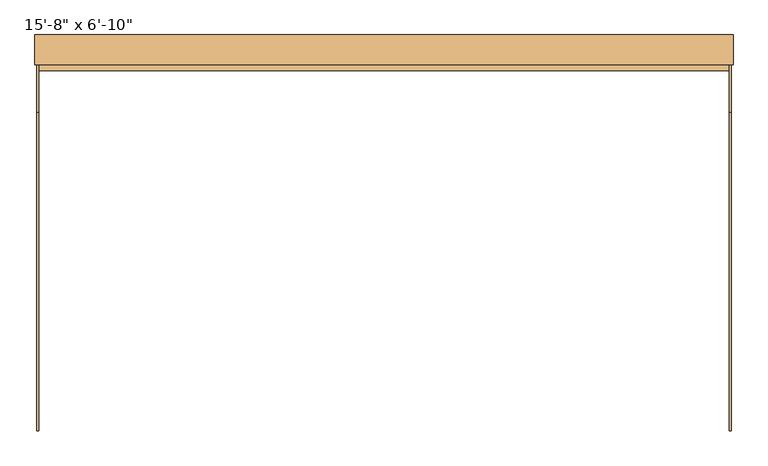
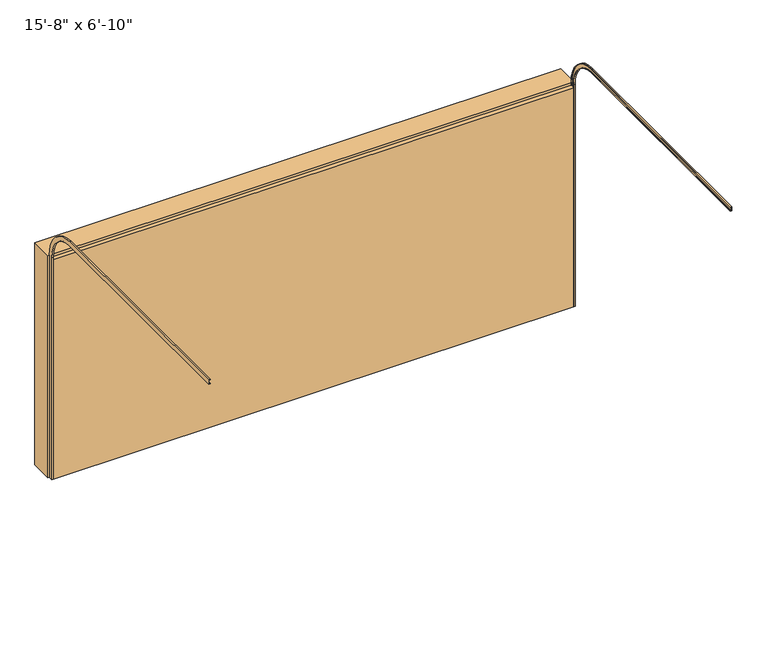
"""IFC4 building model written with IfcOpenShell, lengths in millimetres: door geometry."""

import ifcopenshell
import ifcopenshell.guid

model = None  # the IFC model being written
_history = None  # IfcOwnerHistory: only IFC2X3 demands one
_inside = {}  # id of a spatial element -> (the spatial element, [elements in it])
_under = {}  # id of a project, library or spatial element -> (it, [spatial elements below it])
_declared = {}  # id of a project -> (the project, [libraries it declares])
_typed = {}  # id of a type object -> (the type object, [elements of that type])
_made_of = {}  # id of a material, layer set ... -> (it, [elements and type objects made of it])


def new_model(schema):
    """Start an empty IFC model of exactly this schema.

    Asked for "IFC4X3", IfcOpenShell would pick the latest addendum, in which some entities
    have other attributes; the version numbers below select the first issue.
    IFC2X3 requires an IfcOwnerHistory on every rooted entity: one is made here for all.
    """
    global model, _history
    if schema == "IFC4X3":
        model = ifcopenshell.file(schema_version=(4, 3, 0, 0))
    else:
        model = ifcopenshell.file(schema=schema)
    _inside.clear()
    _under.clear()
    _declared.clear()
    _typed.clear()
    _made_of.clear()
    _history = None
    if model.schema == "IFC2X3":
        org = make("IfcOrganization", Name="unknown")
        user = make(
            "IfcPersonAndOrganization",
            ThePerson=make("IfcPerson", FamilyName="unknown"),
            TheOrganization=org,
        )
        app = make(
            "IfcApplication",
            ApplicationDeveloper=org,
            Version="unknown",
            ApplicationFullName="unknown",
            ApplicationIdentifier="unknown",
        )
        _history = make(
            "IfcOwnerHistory",
            OwningUser=user,
            OwningApplication=app,
            ChangeAction="ADDED",
            CreationDate=0,
        )
    return model


def make(cls, **values):
    """One entity of the class cls with the attributes given. An attribute that is None is left unset."""
    return model.create_entity(
        cls, **{name: value for name, value in values.items() if value is not None}
    )


def rooted(cls, **values):
    """An entity with a GlobalId (a new one), such as an element, a storey or a relation."""
    return make(cls, GlobalId=ifcopenshell.guid.new(), OwnerHistory=_history, **values)


def si_unit(unit_type, name, prefix=None):
    """IfcSIUnit, for example si_unit("LENGTHUNIT", "METRE", prefix="MILLI")."""
    return make("IfcSIUnit", UnitType=unit_type, Prefix=prefix, Name=name)


def assignment(units):
    """IfcUnitAssignment: the units of a project."""
    return None if units is None else make("IfcUnitAssignment", Units=units)


def point(xyz):
    """IfcCartesianPoint."""
    return None if xyz is None else make("IfcCartesianPoint", Coordinates=xyz)


def direction(xyz):
    """IfcDirection."""
    return None if xyz is None else make("IfcDirection", DirectionRatios=xyz)


def frame(location, z_axis=None, x_axis=None):
    """IfcAxis2Placement3D, a coordinate frame: its origin and axes. An axis left out is left unset."""
    return make(
        "IfcAxis2Placement3D",
        Location=point(location),
        Axis=direction(z_axis),
        RefDirection=direction(x_axis),
    )


def origin():
    """The frame at (0, 0, 0) with its axes left unset."""
    return frame((0.0, 0.0, 0.0))


def origin_with_axes():
    """The frame at (0, 0, 0) with the z axis (0, 0, 1) and the x axis (1, 0, 0) written out."""
    return frame((0.0, 0.0, 0.0), z_axis=(0.0, 0.0, 1.0), x_axis=(1.0, 0.0, 0.0))


def place(relative_to, where):
    """IfcLocalPlacement: puts the frame where relative to a parent placement (None: the world)."""
    return make(
        "IfcLocalPlacement", PlacementRelTo=relative_to, RelativePlacement=where
    )


def context(
    kind, dimensions, precision=None, world=None, true_north=None, identifier=None
):
    """IfcGeometricRepresentationContext, for example the 3D "Model" context."""
    return make(
        "IfcGeometricRepresentationContext",
        ContextIdentifier=identifier,
        ContextType=kind,
        CoordinateSpaceDimension=dimensions,
        Precision=precision,
        WorldCoordinateSystem=world,
        TrueNorth=true_north,
    )


def project(units=None, contexts=None):
    """IfcProject with its units and contexts."""
    return rooted(
        "IfcProject",
        Name="project",
        RepresentationContexts=contexts,
        UnitsInContext=assignment(units),
    )


def spatial(cls, under=None, at=None, **own):
    """A site, building, storey or space (cls), placed at a placement, below another one or the project."""
    s = rooted(cls, ObjectPlacement=at, **own)
    if under is not None:
        _under.setdefault(under.id(), (under, []))[1].append(s)
    return s


def polyline(points):
    """IfcPolyline through the points."""
    return make("IfcPolyline", Points=[point(p) for p in points])


def circle_curve(where, radius):
    """IfcCircle in the frame where."""
    return make("IfcCircle", Position=where, Radius=radius)


def outline(outer, holes=None, kind="AREA"):
    """IfcArbitraryClosedProfileDef: a profile drawn as a closed curve; with holes, ...WithVoids."""
    if holes is None:
        return make("IfcArbitraryClosedProfileDef", ProfileType=kind, OuterCurve=outer)
    return make(
        "IfcArbitraryProfileDefWithVoids",
        ProfileType=kind,
        OuterCurve=outer,
        InnerCurves=holes,
    )


def extrude(swept, where, along, depth):
    """IfcExtrudedAreaSolid: the profile swept, set in the frame where, extruded along a direction by depth."""
    return make(
        "IfcExtrudedAreaSolid",
        SweptArea=swept,
        Position=where,
        ExtrudedDirection=direction(along),
        Depth=depth,
    )


def shape(context_of_items, identifier, shape_type, items):
    """IfcShapeRepresentation: the items that make up one representation, for example the "Body"."""
    return make(
        "IfcShapeRepresentation",
        ContextOfItems=context_of_items,
        RepresentationIdentifier=identifier,
        RepresentationType=shape_type,
        Items=items,
    )


def source(mapping_origin, context_of_items, identifier, shape_type, items):
    """IfcRepresentationMap: a shape defined once, which mapped items show again and again."""
    return make(
        "IfcRepresentationMap",
        MappingOrigin=mapping_origin,
        MappedRepresentation=shape(context_of_items, identifier, shape_type, items),
    )


def transform(
    local_origin,
    x_axis=None,
    y_axis=None,
    z_axis=None,
    scale=None,
    scale2=None,
    scale3=None,
    uniform=True,
):
    """IfcCartesianTransformationOperator3D, or its non-uniform kind. x_axis, y_axis, z_axis: its Axis1, 2, 3."""
    if uniform:
        return make(
            "IfcCartesianTransformationOperator3D",
            Axis1=direction(x_axis),
            Axis2=direction(y_axis),
            LocalOrigin=point(local_origin),
            Scale=scale,
            Axis3=direction(z_axis),
        )
    return make(
        "IfcCartesianTransformationOperator3DnonUniform",
        Axis1=direction(x_axis),
        Axis2=direction(y_axis),
        LocalOrigin=point(local_origin),
        Scale=scale,
        Axis3=direction(z_axis),
        Scale2=scale2,
        Scale3=scale3,
    )


def mapped(mapping_source, mapping_target):
    """IfcMappedItem: shows the shape of a source again, moved by a transform."""
    return make(
        "IfcMappedItem", MappingSource=mapping_source, MappingTarget=mapping_target
    )


def made_of(thing, what):
    """Note that an element or type object is made of a material, layer set ...; save() writes the relation."""
    if what is not None:
        _made_of.setdefault(what.id(), (what, []))[1].append(thing)
    return thing


def element(
    cls,
    number,
    at=None,
    inside=None,
    cuts=None,
    type_object=None,
    material=None,
    context=None,
    identifier="Body",
    shape_type=None,
    held_by="IfcProductDefinitionShape",
    body=None,
    shapes=None,
    **own,
):
    """One element of the class cls, such as IfcWall. Its Tag is "e" and its number.

    at: its placement. inside: the storey or other place that contains it. cuts: it is an
    opening in that element (IfcRelVoidsElement). A single representation is given by context,
    identifier, shape_type and body (its items); several are given by shapes. held_by: the class
    of the entity that holds the representations. save() writes the other relations.
    """
    e = rooted(cls, Tag="e%d" % number, ObjectPlacement=at, **own)
    if body is not None:
        shapes = [shape(context, identifier, shape_type, body)]
    if shapes is not None:
        e.Representation = make(held_by, Representations=shapes)
    if inside is not None:
        _inside.setdefault(inside.id(), (inside, []))[1].append(e)
    if cuts is not None:
        rooted(
            "IfcRelVoidsElement", RelatingBuildingElement=cuts, RelatedOpeningElement=e
        )
    if type_object is not None:
        _typed.setdefault(type_object.id(), (type_object, []))[1].append(e)
    return made_of(e, material)


def aggregate(whole, parts):
    """IfcRelAggregates: a whole, such as a stair, and the parts it consists of."""
    return rooted("IfcRelAggregates", RelatingObject=whole, RelatedObjects=parts)


def save(model, path):
    """Write the relations noted so far, then the file.

    IfcRelAggregates (storeys below a building ...), IfcRelContainedInSpatialStructure (elements
    in a storey), IfcRelDefinesByType, IfcRelAssociatesMaterial and IfcRelDeclares: one each for
    every whole, place, type object, material and project.
    """
    for whole, parts in _under.values():
        aggregate(whole, parts)
    for where, things in _inside.values():
        rooted(
            "IfcRelContainedInSpatialStructure",
            RelatedElements=things,
            RelatingStructure=where,
        )
    for kind, things in _typed.values():
        rooted("IfcRelDefinesByType", RelatedObjects=things, RelatingType=kind)
    for what, things in _made_of.values():
        rooted("IfcRelAssociatesMaterial", RelatedObjects=things, RelatingMaterial=what)
    for by, libraries in _declared.values():
        rooted("IfcRelDeclares", RelatingContext=by, RelatedDefinitions=libraries)
    model.write(path)


def plane_surface(at):
    """IfcPlane: the flat surface through the origin of the frame at, square to its z axis."""
    return make("IfcPlane", Position=at)


def cylinder_surface(at, radius):
    """IfcCylindricalSurface: all points at the distance radius from the z axis of the frame at."""
    return make("IfcCylindricalSurface", Position=at, Radius=radius)


def revolved_surface(curve, axis_point, axis_direction):
    """IfcSurfaceOfRevolution: the curve turned about the line through axis_point along axis_direction."""
    return make(
        "IfcSurfaceOfRevolution",
        SweptCurve=make("IfcArbitraryOpenProfileDef", ProfileType="CURVE", Curve=curve),
        AxisPosition=make("IfcAxis1Placement", Location=point(axis_point), Axis=direction(axis_direction)),
    )


def advanced_brep(points, edges, surfaces, faces):
    """IfcAdvancedBrep: a solid bounded by faces that lie on surfaces and meet in shared edges.

    An edge is (start, end): straight between two places in points (the first is 0);
    or (start, end, curve); or (start, end, curve, False) where it runs against its curve.
    A face is (place in surfaces, loops), or (place, loops, False) where it looks against
    its surface's normal. A loop lists edges by number (the first is 1), with a minus sign
    where the edge is run from its end to its start. The first loop is the outer one.
    """
    corners = [point(p) for p in points]
    vertices = [make("IfcVertexPoint", VertexGeometry=c) for c in corners]
    made = []
    for start, end, *more in edges:
        made.append(
            make(
                "IfcEdgeCurve",
                EdgeStart=vertices[start],
                EdgeEnd=vertices[end],
                EdgeGeometry=more[0] if more else make("IfcPolyline", Points=[corners[start], corners[end]]),
                SameSense=more[1] if len(more) > 1 else True,
            )
        )
    hull = []
    for where, loops, *sense in faces:
        bounds = []
        for j, loop in enumerate(loops):
            ring = [make("IfcOrientedEdge", EdgeElement=made[abs(k) - 1], Orientation=k > 0) for k in loop]
            bounds.append(
                make(
                    "IfcFaceOuterBound" if j == 0 else "IfcFaceBound",
                    Bound=make("IfcEdgeLoop", EdgeList=ring),
                    Orientation=True,
                )
            )
        hull.append(make("IfcAdvancedFace", Bounds=bounds, FaceSurface=surfaces[where], SameSense=sense[0] if sense else True))
    return make("IfcAdvancedBrep", Outer=make("IfcClosedShell", CfsFaces=hull))


def door_07191283(model_context):
    return source(origin(), model_context, "Body", "SolidModel", [
        advanced_brep(
        [(2349.5, -144.775, 0.0), (2336.8, -144.775, 0.0), (2336.8, -141.6, 0.0), (2346.325, -141.6, 0.0), (2346.325, -107.975, 0.0), (2336.8, -107.975, 0.0), (2336.8, -104.775, 0.0), (2349.5, -104.775, 0.0), (2349.5, -144.775, 2107.8), (2336.8, -144.775, 2107.8), (2336.8, -424.175, 2387.2), (2336.8, -2583.175, 2387.2), (2336.8, -2583.175, 2390.375), (2336.8, -424.175, 2390.375), (2336.8, -141.6, 2107.8), (2346.325, -141.6, 2107.8), (2346.325, -424.175, 2390.375), (2346.325, -2583.175, 2390.375), (2346.325, -2583.175, 2424.0), (2346.325, -424.175, 2424.0), (2346.325, -107.975, 2107.8), (2336.8, -107.975, 2107.8), (2336.8, -424.175, 2424.0), (2336.8, -2583.175, 2424.0), (2336.8, -2583.175, 2427.2), (2336.8, -424.175, 2427.2), (2336.8, -104.775, 2107.8), (2349.5, -104.775, 2107.8), (2349.5, -424.175, 2427.2), (2349.5, -2583.175, 2427.2), (2349.5, -2583.175, 2387.2), (2349.5, -424.175, 2387.2)],
        [
            (0, 1),
            (1, 2),
            (2, 3),
            (3, 4),
            (4, 5),
            (5, 6),
            (6, 7),
            (7, 0),
            (0, 8),
            (8, 9),
            (9, 1),
            (9, 10, circle_curve(frame((2336.8, -424.175, 2107.8), z_axis=(1.0, 0.0, 0.0), x_axis=(0.0, 1.0, 0.0)), 279.4)),
            (10, 11),
            (11, 12),
            (12, 13),
            (13, 14, circle_curve(frame((2336.8, -424.175, 2107.8), z_axis=(-1.0, 0.0, 0.0), x_axis=(0.0, 1.0, 0.0)), 282.575)),
            (14, 2),
            (14, 15),
            (15, 3),
            (15, 16, circle_curve(frame((2346.325, -424.175, 2107.8), z_axis=(1.0, 0.0, 0.0), x_axis=(0.0, 1.0, 0.0)), 282.575)),
            (16, 17),
            (17, 18),
            (18, 19),
            (19, 20, circle_curve(frame((2346.325, -424.175, 2107.8), z_axis=(-1.0, 0.0, 0.0), x_axis=(0.0, 1.0, 0.0)), 316.2)),
            (20, 4),
            (20, 21),
            (21, 5),
            (21, 22, circle_curve(frame((2336.8, -424.175, 2107.8), z_axis=(1.0, 0.0, 0.0), x_axis=(0.0, 1.0, 0.0)), 316.2)),
            (22, 23),
            (23, 24),
            (24, 25),
            (25, 26, circle_curve(frame((2336.8, -424.175, 2107.8), z_axis=(-1.0, 0.0, 0.0), x_axis=(0.0, 1.0, 0.0)), 319.4)),
            (26, 6),
            (26, 27),
            (27, 7),
            (27, 28, circle_curve(frame((2349.5, -424.175, 2107.8), z_axis=(1.0, 0.0, 0.0), x_axis=(0.0, 1.0, 0.0)), 319.4)),
            (28, 29),
            (29, 30),
            (30, 31),
            (31, 8, circle_curve(frame((2349.5, -424.175, 2107.8), z_axis=(-1.0, 0.0, 0.0), x_axis=(0.0, 1.0, 0.0)), 279.4)),
            (31, 10),
            (13, 16),
            (19, 22),
            (25, 28),
            (29, 24),
            (23, 18),
            (17, 12),
            (11, 30),
        ],
        [
            plane_surface(frame((0.0, -144.775, 0.0), z_axis=(0.0, 0.0, -1.0), x_axis=(1.0, 0.0, 0.0))),
            plane_surface(frame((2349.5, -144.775, 0.0), z_axis=(0.0, -1.0, 0.0), x_axis=(0.0, 0.0, 1.0))),
            plane_surface(frame((2336.8, -144.775, 0.0), z_axis=(-1.0, 0.0, 0.0), x_axis=(0.0, 0.0, 1.0))),
            plane_surface(frame((2336.8, -141.6, 0.0), z_axis=(0.0, 1.0, 0.0), x_axis=(0.0, 0.0, 1.0))),
            plane_surface(frame((2346.325, -141.6, 0.0), z_axis=(-1.0, 0.0, 0.0), x_axis=(0.0, 0.0, 1.0))),
            plane_surface(frame((2346.325, -107.975, 0.0), z_axis=(0.0, -1.0, 0.0), x_axis=(0.0, 0.0, 1.0))),
            plane_surface(frame((2336.8, -107.975, 0.0), z_axis=(-1.0, 0.0, 0.0), x_axis=(0.0, 0.0, 1.0))),
            plane_surface(frame((2336.8, -104.775, 0.0), z_axis=(0.0, 1.0, 0.0), x_axis=(0.0, 0.0, 1.0))),
            plane_surface(frame((2349.5, -104.775, 0.0), z_axis=(1.0, 0.0, 0.0), x_axis=(0.0, 0.0, 1.0))),
            revolved_surface(polyline([(2349.5, -144.77500000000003, 2107.8), (2336.8, -144.77500000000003, 2107.8)]), (0.0, -424.175, 2107.8), (1.0, 0.0, 0.0)),
            cylinder_surface(frame((0.0, -424.175, 2107.8), z_axis=(1.0, 0.0, 0.0), x_axis=(0.0, 1.0, 0.0)), 282.575),
            revolved_surface(polyline([(2346.325, -107.97500000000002, 2107.8), (2336.8, -107.97500000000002, 2107.8)]), (0.0, -424.175, 2107.8), (1.0, 0.0, 0.0)),
            cylinder_surface(frame((0.0, -424.175, 2107.8), z_axis=(1.0, 0.0, 0.0), x_axis=(0.0, 1.0, 0.0)), 319.4),
            plane_surface(frame((0.0, -2583.175, 2387.2), z_axis=(0.0, -1.0, 0.0), x_axis=(1.0, 0.0, 0.0))),
            plane_surface(frame((2349.5, -424.175, 2387.2), z_axis=(0.0, 0.0, -1.0), x_axis=(0.0, -1.0, 0.0))),
            plane_surface(frame((2336.8, -424.175, 2390.375), z_axis=(0.0, 0.0, 1.0), x_axis=(0.0, -1.0, 0.0))),
            plane_surface(frame((2346.325, -424.175, 2424.0), z_axis=(0.0, 0.0, -1.0), x_axis=(0.0, -1.0, 0.0))),
            plane_surface(frame((2336.8, -424.175, 2427.2), z_axis=(0.0, 0.0, 1.0), x_axis=(0.0, -1.0, 0.0))),
        ],
        [
            (0, [[1, 2, 3, 4, 5, 6, 7, 8]]),
            (1, [[-1, 9, 10, 11]]),
            (2, [[-2, -11, 12, 13, 14, 15, 16, 17]]),
            (3, [[-3, -17, 18, 19]]),
            (4, [[-4, -19, 20, 21, 22, 23, 24, 25]]),
            (5, [[-5, -25, 26, 27]]),
            (6, [[-6, -27, 28, 29, 30, 31, 32, 33]]),
            (7, [[-7, -33, 34, 35]]),
            (8, [[-8, -35, 36, 37, 38, 39, 40, -9]]),
            (9, [[-12, -10, -40, 41]]),
            (10, [[-20, -18, -16, 42]]),
            (11, [[-28, -26, -24, 43]]),
            (12, [[-36, -34, -32, 44]]),
            (13, [[-38, 45, -30, 46, -22, 47, -14, 48]]),
            (14, [[-41, -39, -48, -13]]),
            (15, [[-42, -15, -47, -21]]),
            (16, [[-43, -23, -46, -29]]),
            (17, [[-44, -31, -45, -37]]),
        ],
    ),
        advanced_brep(
        [(-2349.5, -144.775, 0.0), (-2349.5, -104.775, 0.0), (-2336.8, -104.775, 0.0), (-2336.8, -107.975, 0.0), (-2346.325, -107.975, 0.0), (-2346.325, -141.6, 0.0), (-2336.8, -141.6, 0.0), (-2336.8, -144.775, 0.0), (-2349.5, -144.775, 2107.8), (-2349.5, -424.175, 2387.2), (-2349.5, -2583.175, 2387.2), (-2349.5, -2583.175, 2427.2), (-2349.5, -424.175, 2427.2), (-2349.5, -104.775, 2107.8), (-2336.8, -104.775, 2107.8), (-2336.8, -424.175, 2427.2), (-2336.8, -2583.175, 2427.2), (-2336.8, -2583.175, 2424.0), (-2336.8, -424.175, 2424.0), (-2336.8, -107.975, 2107.8), (-2346.325, -107.975, 2107.8), (-2346.325, -424.175, 2424.0), (-2346.325, -2583.175, 2424.0), (-2346.325, -2583.175, 2390.375), (-2346.325, -424.175, 2390.375), (-2346.325, -141.6, 2107.8), (-2336.8, -141.6, 2107.8), (-2336.8, -424.175, 2390.375), (-2336.8, -2583.175, 2390.375), (-2336.8, -2583.175, 2387.2), (-2336.8, -424.175, 2387.2), (-2336.8, -144.775, 2107.8)],
        [
            (0, 1),
            (1, 2),
            (2, 3),
            (3, 4),
            (4, 5),
            (5, 6),
            (6, 7),
            (7, 0),
            (0, 8),
            (8, 9, circle_curve(frame((-2349.5, -424.175, 2107.8), z_axis=(1.0, 0.0, 0.0), x_axis=(0.0, 1.0, 0.0)), 279.4)),
            (9, 10),
            (10, 11),
            (11, 12),
            (12, 13, circle_curve(frame((-2349.5, -424.175, 2107.8), z_axis=(-1.0, 0.0, 0.0), x_axis=(0.0, 1.0, 0.0)), 319.4)),
            (13, 1),
            (13, 14),
            (14, 2),
            (14, 15, circle_curve(frame((-2336.8, -424.175, 2107.8), z_axis=(1.0, 0.0, 0.0), x_axis=(0.0, 1.0, 0.0)), 319.4)),
            (15, 16),
            (16, 17),
            (17, 18),
            (18, 19, circle_curve(frame((-2336.8, -424.175, 2107.8), z_axis=(-1.0, 0.0, 0.0), x_axis=(0.0, 1.0, 0.0)), 316.2)),
            (19, 3),
            (19, 20),
            (20, 4),
            (20, 21, circle_curve(frame((-2346.325, -424.175, 2107.8), z_axis=(1.0, 0.0, 0.0), x_axis=(0.0, 1.0, 0.0)), 316.2)),
            (21, 22),
            (22, 23),
            (23, 24),
            (24, 25, circle_curve(frame((-2346.325, -424.175, 2107.8), z_axis=(-1.0, 0.0, 0.0), x_axis=(0.0, 1.0, 0.0)), 282.575)),
            (25, 5),
            (25, 26),
            (26, 6),
            (26, 27, circle_curve(frame((-2336.8, -424.175, 2107.8), z_axis=(1.0, 0.0, 0.0), x_axis=(0.0, 1.0, 0.0)), 282.575)),
            (27, 28),
            (28, 29),
            (29, 30),
            (30, 31, circle_curve(frame((-2336.8, -424.175, 2107.8), z_axis=(-1.0, 0.0, 0.0), x_axis=(0.0, 1.0, 0.0)), 279.4)),
            (31, 7),
            (31, 8),
            (12, 15),
            (18, 21),
            (24, 27),
            (30, 9),
            (10, 29),
            (28, 23),
            (22, 17),
            (16, 11),
        ],
        [
            plane_surface(frame((0.0, -144.775, 0.0), z_axis=(0.0, 0.0, -1.0), x_axis=(1.0, 0.0, 0.0))),
            plane_surface(frame((-2349.5, -144.775, 0.0), z_axis=(-1.0, 0.0, 0.0), x_axis=(0.0, 0.0, 1.0))),
            plane_surface(frame((-2349.5, -104.775, 0.0), z_axis=(0.0, 1.0, 0.0), x_axis=(0.0, 0.0, 1.0))),
            plane_surface(frame((-2336.8, -104.775, 0.0), z_axis=(1.0, 0.0, 0.0), x_axis=(0.0, 0.0, 1.0))),
            plane_surface(frame((-2336.8, -107.975, 0.0), z_axis=(0.0, -1.0, 0.0), x_axis=(0.0, 0.0, 1.0))),
            plane_surface(frame((-2346.325, -107.975, 0.0), z_axis=(1.0, 0.0, 0.0), x_axis=(0.0, 0.0, 1.0))),
            plane_surface(frame((-2346.325, -141.6, 0.0), z_axis=(0.0, 1.0, 0.0), x_axis=(0.0, 0.0, 1.0))),
            plane_surface(frame((-2336.8, -141.6, 0.0), z_axis=(1.0, 0.0, 0.0), x_axis=(0.0, 0.0, 1.0))),
            plane_surface(frame((-2336.8, -144.775, 0.0), z_axis=(0.0, -1.0, 0.0), x_axis=(0.0, 0.0, 1.0))),
            cylinder_surface(frame((0.0, -424.175, 2107.8), z_axis=(1.0, 0.0, 0.0), x_axis=(0.0, 1.0, 0.0)), 319.4),
            revolved_surface(polyline([(-2336.8, -107.97500000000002, 2107.8), (-2346.325, -107.97500000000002, 2107.8)]), (0.0, -424.175, 2107.8), (1.0, 0.0, 0.0)),
            cylinder_surface(frame((0.0, -424.175, 2107.8), z_axis=(1.0, 0.0, 0.0), x_axis=(0.0, 1.0, 0.0)), 282.575),
            revolved_surface(polyline([(-2336.8, -144.77500000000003, 2107.8), (-2349.5, -144.77500000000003, 2107.8)]), (0.0, -424.175, 2107.8), (1.0, 0.0, 0.0)),
            plane_surface(frame((0.0, -2583.175, 2387.2), z_axis=(0.0, -1.0, 0.0), x_axis=(1.0, 0.0, 0.0))),
            plane_surface(frame((-2349.5, -424.175, 2427.2), z_axis=(0.0, 0.0, 1.0), x_axis=(0.0, -1.0, 0.0))),
            plane_surface(frame((-2336.8, -424.175, 2424.0), z_axis=(0.0, 0.0, -1.0), x_axis=(0.0, -1.0, 0.0))),
            plane_surface(frame((-2346.325, -424.175, 2390.375), z_axis=(0.0, 0.0, 1.0), x_axis=(0.0, -1.0, 0.0))),
            plane_surface(frame((-2336.8, -424.175, 2387.2), z_axis=(0.0, 0.0, -1.0), x_axis=(0.0, -1.0, 0.0))),
        ],
        [
            (0, [[1, 2, 3, 4, 5, 6, 7, 8]]),
            (1, [[-1, 9, 10, 11, 12, 13, 14, 15]]),
            (2, [[-2, -15, 16, 17]]),
            (3, [[-3, -17, 18, 19, 20, 21, 22, 23]]),
            (4, [[-4, -23, 24, 25]]),
            (5, [[-5, -25, 26, 27, 28, 29, 30, 31]]),
            (6, [[-6, -31, 32, 33]]),
            (7, [[-7, -33, 34, 35, 36, 37, 38, 39]]),
            (8, [[-8, -39, 40, -9]]),
            (9, [[-18, -16, -14, 41]]),
            (10, [[-26, -24, -22, 42]]),
            (11, [[-34, -32, -30, 43]]),
            (12, [[-10, -40, -38, 44]]),
            (13, [[45, -36, 46, -28, 47, -20, 48, -12]]),
            (14, [[-41, -13, -48, -19]]),
            (15, [[-42, -21, -47, -27]]),
            (16, [[-43, -29, -46, -35]]),
            (17, [[-44, -37, -45, -11]]),
        ],
    ),
        extrude(outline(polyline([(0.0, 2336.8), (0.0, 2361.8), (2107.8, 2361.8), (2107.8, -2361.8), (0.0, -2361.8), (0.0, -2336.8), (2082.8, -2336.8), (2082.8, 2336.8), (0.0, 2336.8)])), frame((0.0, -104.775, 0.0), z_axis=(0.0, 1.0, 0.0), x_axis=(0.0, 0.0, 1.0)), (0.0, 0.0, 1.0), 203.2),
        extrude(outline(polyline([(2336.8, -144.775), (-2336.8, -144.775), (-2336.8, -104.775), (2336.8, -104.775), (2336.8, -144.775)])), origin_with_axes(), (0.0, 0.0, 1.0), 2082.8),
    ])


if __name__ == "__main__":
    model = new_model("IFC4")
    model_context = context("Model", 3, world=origin())
    ifc_project = project(units=[si_unit("LENGTHUNIT", "METRE", prefix="MILLI")], contexts=[model_context])
    site = spatial("IfcSite", under=ifc_project)
    building = spatial("IfcBuilding", under=site)
    placement = place(None, origin())
    door_shape = door_07191283(model_context)
    element("IfcDoor", 1, ObjectType="Planitar - Garage Door : 15'-8\" x 6'-10\"", at=placement, inside=building, context=model_context, shape_type="MappedRepresentation", body=[
        mapped(door_shape, transform((0.0, 0.0, 0.0), x_axis=(1.0, 0.0, 0.0), y_axis=(0.0, 1.0, 0.0), z_axis=(0.0, 0.0, 1.0))),
    ])
    save(model, "model.ifc")
